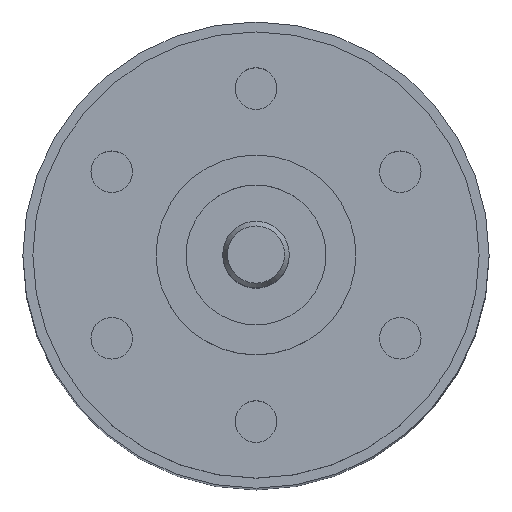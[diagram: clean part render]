
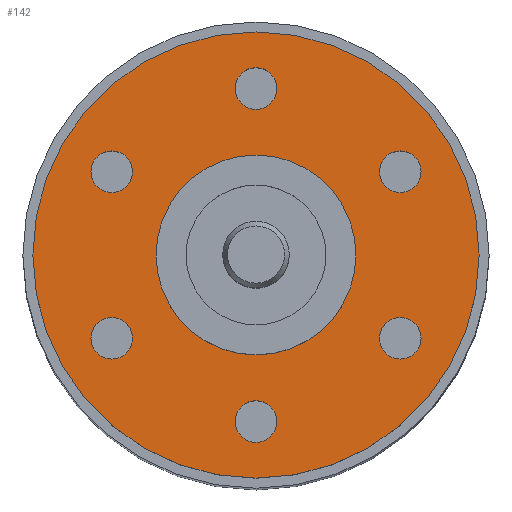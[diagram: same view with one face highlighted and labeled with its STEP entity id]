
A CAD part, top view. The second image highlights one B-rep face of the part: STEP entity #142.
In plain terms, the highlighted planar face has unit normal (0, 0, 1).
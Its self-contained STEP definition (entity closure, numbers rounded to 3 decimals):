
#142=ADVANCED_FACE('',(#382,#383,#384,#385,#386,#387,#388,#389),#239,.T.);
#239=PLANE('',#1518);
#304=CIRCLE('',#1510,3.);
#305=CIRCLE('',#1511,0.625);
#306=CIRCLE('',#1512,0.625);
#307=CIRCLE('',#1513,0.625);
#308=CIRCLE('',#1514,0.625);
#309=CIRCLE('',#1515,0.625);
#310=CIRCLE('',#1516,0.625);
#311=CIRCLE('',#1517,6.7);
#382=FACE_BOUND('',#478,.T.);
#383=FACE_BOUND('',#479,.T.);
#384=FACE_BOUND('',#480,.T.);
#385=FACE_BOUND('',#481,.T.);
#386=FACE_BOUND('',#482,.T.);
#387=FACE_BOUND('',#483,.T.);
#388=FACE_BOUND('',#484,.T.);
#389=FACE_BOUND('',#485,.T.);
#478=EDGE_LOOP('',(#650));
#479=EDGE_LOOP('',(#651));
#480=EDGE_LOOP('',(#652));
#481=EDGE_LOOP('',(#653));
#482=EDGE_LOOP('',(#654));
#483=EDGE_LOOP('',(#655));
#484=EDGE_LOOP('',(#656));
#485=EDGE_LOOP('',(#657));
#650=ORIENTED_EDGE('',*,*,#1146,.F.);
#651=ORIENTED_EDGE('',*,*,#1147,.T.);
#652=ORIENTED_EDGE('',*,*,#1148,.T.);
#653=ORIENTED_EDGE('',*,*,#1149,.T.);
#654=ORIENTED_EDGE('',*,*,#1150,.T.);
#655=ORIENTED_EDGE('',*,*,#1151,.T.);
#656=ORIENTED_EDGE('',*,*,#1152,.T.);
#657=ORIENTED_EDGE('',*,*,#1153,.F.);
#1010=VERTEX_POINT('',#2193);
#1011=VERTEX_POINT('',#2195);
#1012=VERTEX_POINT('',#2197);
#1013=VERTEX_POINT('',#2199);
#1014=VERTEX_POINT('',#2201);
#1015=VERTEX_POINT('',#2203);
#1016=VERTEX_POINT('',#2205);
#1017=VERTEX_POINT('',#2207);
#1146=EDGE_CURVE('',#1010,#1010,#304,.T.);
#1147=EDGE_CURVE('',#1011,#1011,#305,.T.);
#1148=EDGE_CURVE('',#1012,#1012,#306,.T.);
#1149=EDGE_CURVE('',#1013,#1013,#307,.T.);
#1150=EDGE_CURVE('',#1014,#1014,#308,.T.);
#1151=EDGE_CURVE('',#1015,#1015,#309,.T.);
#1152=EDGE_CURVE('',#1016,#1016,#310,.T.);
#1153=EDGE_CURVE('',#1017,#1017,#311,.T.);
#1510=AXIS2_PLACEMENT_3D('',#2192,#1720,#1721);
#1511=AXIS2_PLACEMENT_3D('',#2194,#1722,#1723);
#1512=AXIS2_PLACEMENT_3D('',#2196,#1724,#1725);
#1513=AXIS2_PLACEMENT_3D('',#2198,#1726,#1727);
#1514=AXIS2_PLACEMENT_3D('',#2200,#1728,#1729);
#1515=AXIS2_PLACEMENT_3D('',#2202,#1730,#1731);
#1516=AXIS2_PLACEMENT_3D('',#2204,#1732,#1733);
#1517=AXIS2_PLACEMENT_3D('',#2206,#1734,#1735);
#1518=AXIS2_PLACEMENT_3D('',#2208,#1736,#1737);
#1720=DIRECTION('',(0.,0.,1.));
#1721=DIRECTION('',(1.,0.,0.));
#1722=DIRECTION('',(0.,0.,-1.));
#1723=DIRECTION('',(-1.,0.,0.));
#1724=DIRECTION('',(0.,0.,-1.));
#1725=DIRECTION('',(-0.5,-0.866,0.));
#1726=DIRECTION('',(0.,0.,-1.));
#1727=DIRECTION('',(0.5,-0.866,0.));
#1728=DIRECTION('',(0.,0.,-1.));
#1729=DIRECTION('',(1.,0.,0.));
#1730=DIRECTION('',(0.,0.,-1.));
#1731=DIRECTION('',(0.5,0.866,0.));
#1732=DIRECTION('',(0.,0.,-1.));
#1733=DIRECTION('',(-0.5,0.866,0.));
#1734=DIRECTION('',(0.,0.,-1.));
#1735=DIRECTION('',(-1.,0.,0.));
#1736=DIRECTION('',(0.,0.,1.));
#1737=DIRECTION('',(1.,0.,0.));
#2192=CARTESIAN_POINT('',(0.,0.,0.));
#2193=CARTESIAN_POINT('',(3.,0.,0.));
#2194=CARTESIAN_POINT('',(0.,5.,0.));
#2195=CARTESIAN_POINT('',(-0.625,5.,0.));
#2196=CARTESIAN_POINT('',(-4.33,2.5,0.));
#2197=CARTESIAN_POINT('',(-4.643,1.959,0.));
#2198=CARTESIAN_POINT('',(-4.33,-2.5,0.));
#2199=CARTESIAN_POINT('',(-4.018,-3.041,0.));
#2200=CARTESIAN_POINT('',(0.,-5.,0.));
#2201=CARTESIAN_POINT('',(0.625,-5.,0.));
#2202=CARTESIAN_POINT('',(4.33,-2.5,0.));
#2203=CARTESIAN_POINT('',(4.643,-1.959,0.));
#2204=CARTESIAN_POINT('',(4.33,2.5,0.));
#2205=CARTESIAN_POINT('',(4.018,3.041,0.));
#2206=CARTESIAN_POINT('',(0.,0.,0.));
#2207=CARTESIAN_POINT('',(-6.7,0.,0.));
#2208=CARTESIAN_POINT('',(0.,0.,0.));
